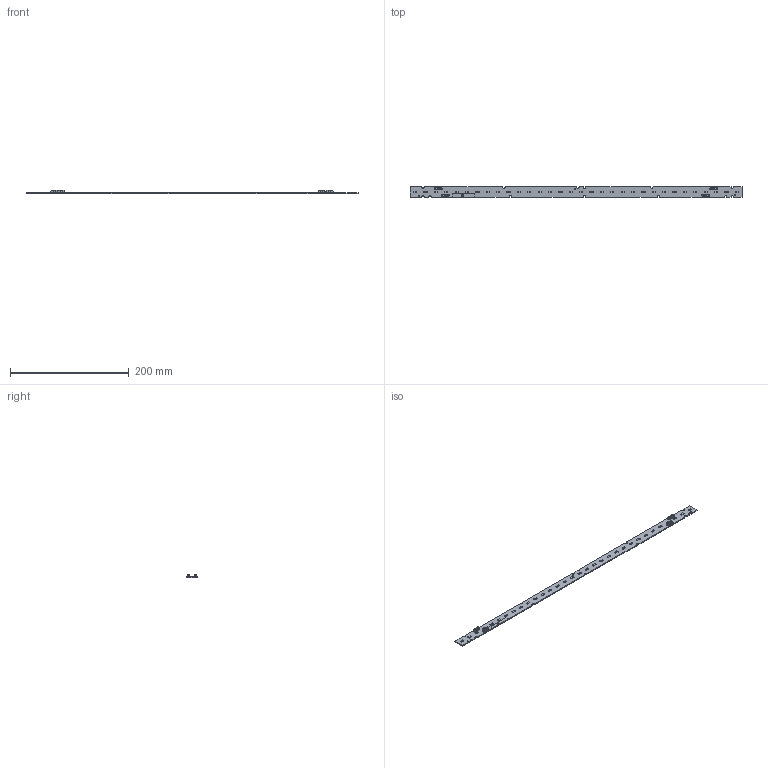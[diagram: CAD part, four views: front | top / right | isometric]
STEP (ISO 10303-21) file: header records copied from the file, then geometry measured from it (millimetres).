
FILE_DESCRIPTION(/* description */ (''),/* implementation_level */ '2;1');
FILE_NAME(/* name */ 'M562B_G2_MODULE.stp',/* time_stamp */ '2016-03-28T18:34:20+09:00',/* author */ (''),/* organization */ (''),/* preprocessor_version */ 'ST-DEVELOPER v15',/* originating_system */ 'SIEMENS PLM Software NX 8.5',/* authorisation */ '');
FILE_SCHEMA (('AP203_CONFIGURATION_CONTROLLED_3D_DESIGN_OF_MECHANICAL_PARTS_AND_ASSEMBLIES_MIM_LF { 1 0 10303 403 2 1 2}'));
Products named in the file (1): jjjj034498ACqt3w
Bounding box: 560 x 18 x 5.75 mm (x, y, z)
Volume: 16405.3 mm3; surface area: 26110.3 mm2
Topology: 42 solids, 42 shells, 2181 faces, 6928 edges, 5220 vertices
Faces by surface type: plane 1918, cylinder 198, bspline 24, torus 20, extrusion 13, sphere 8
Full cylindrical faces by diameter (mm): 2 x3
Entity records: 91508 total; most frequent: CARTESIAN_POINT 33878, ORIENTED_EDGE 12026, DIRECTION 11002, EDGE_CURVE 6013, VECTOR 5800, LINE 5787, VERTEX_POINT 3960, AXIS2_PLACEMENT_3D 2601
